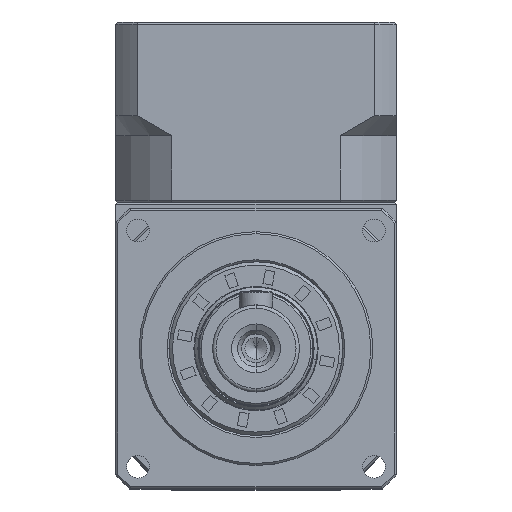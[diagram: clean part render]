
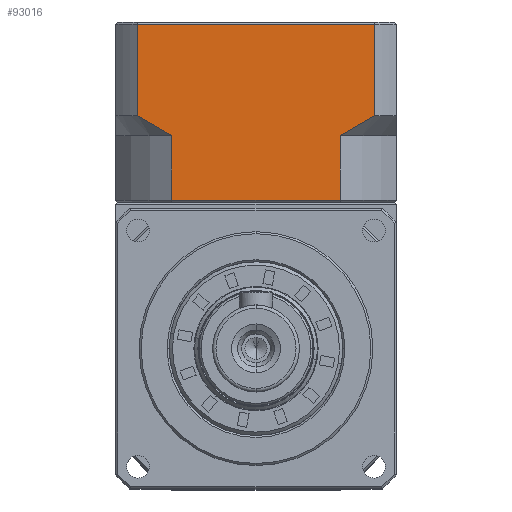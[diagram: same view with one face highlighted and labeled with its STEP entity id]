
A CAD part, top view. The second image highlights one B-rep face of the part: STEP entity #93016.
In plain terms, the highlighted planar face has unit normal (0, 0, 1).
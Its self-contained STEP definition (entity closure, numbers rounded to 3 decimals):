
#18 = CARTESIAN_POINT ( 'NONE',  ( 55.323, 80.19, 11.539 ) ) ;
#1087 = EDGE_CURVE ( 'NONE', #29440, #60967, #33813, .T. ) ;
#1809 = CARTESIAN_POINT ( 'NONE',  ( 24.949, 53.79, 11.539 ) ) ;
#2023 = EDGE_CURVE ( 'NONE', #9877, #27617, #25540, .T. ) ;
#2550 = AXIS2_PLACEMENT_3D ( 'NONE', #27292, #79805, #34813 ) ;
#2704 = CARTESIAN_POINT ( 'NONE',  ( 50.188, 53.79, 11.539 ) ) ;
#3744 = VECTOR ( 'NONE', #71162, 1000. ) ;
#4577 = VECTOR ( 'NONE', #58269, 1000. ) ;
#6670 = DIRECTION ( 'NONE',  ( 0., -1., 0. ) ) ;
#9877 = VERTEX_POINT ( 'NONE', #93870 ) ;
#10896 = CARTESIAN_POINT ( 'NONE',  ( 50.188, 33.326, 11.539 ) ) ;
#11557 = VECTOR ( 'NONE', #62720, 1000. ) ;
#11573 = LINE ( 'NONE', #67466, #49137 ) ;
#15546 = CARTESIAN_POINT ( 'NONE',  ( 19.813, 80.19, 11.539 ) ) ;
#16696 = CARTESIAN_POINT ( 'NONE',  ( 19.813, 66.49, 11.539 ) ) ;
#19519 = EDGE_CURVE ( 'NONE', #39418, #73601, #66395, .T. ) ;
#21734 = CARTESIAN_POINT ( 'NONE',  ( 24.949, 53.49, 11.539 ) ) ;
#23847 = CARTESIAN_POINT ( 'NONE',  ( 21.48, 65.414, 11.539 ) ) ;
#25540 = LINE ( 'NONE', #10896, #63097 ) ;
#26531 = VERTEX_POINT ( 'NONE', #79546 ) ;
#26982 = PLANE ( 'NONE',  #2550 ) ;
#27292 = CARTESIAN_POINT ( 'NONE',  ( 58.568, 53.49, 11.539 ) ) ;
#27455 = EDGE_LOOP ( 'NONE', ( #54706, #91951, #57046, #46907, #46039, #80919, #42972, #77297 ) ) ;
#27617 = VERTEX_POINT ( 'NONE', #2704 ) ;
#29259 = CARTESIAN_POINT ( 'NONE',  ( 24.949, 63.49, 11.539 ) ) ;
#29262 = CARTESIAN_POINT ( 'NONE',  ( 53.656, 65.414, 11.539 ) ) ;
#29440 = VERTEX_POINT ( 'NONE', #89719 ) ;
#30005 = DIRECTION ( 'NONE',  ( -1., 0., 0. ) ) ;
#33813 = LINE ( 'NONE', #40051, #11557 ) ;
#34813 = DIRECTION ( 'NONE',  ( -1., 0., 0. ) ) ;
#39261 = CARTESIAN_POINT ( 'NONE',  ( 24.949, 63.49, 11.539 ) ) ;
#39418 = VERTEX_POINT ( 'NONE', #29259 ) ;
#40051 = CARTESIAN_POINT ( 'NONE',  ( 55.323, 53.49, 11.539 ) ) ;
#42972 = ORIENTED_EDGE ( 'NONE', *, *, #1087, .T. ) ;
#45360 = EDGE_CURVE ( 'NONE', #74047, #26531, #84380, .T. ) ;
#46039 = ORIENTED_EDGE ( 'NONE', *, *, #2023, .F. ) ;
#46907 = ORIENTED_EDGE ( 'NONE', *, *, #58890, .F. ) ;
#49137 = VECTOR ( 'NONE', #30005, 1000. ) ;
#53047 = CARTESIAN_POINT ( 'NONE',  ( 58.568, 80.19, 11.539 ) ) ;
#54706 = ORIENTED_EDGE ( 'NONE', *, *, #45360, .T. ) ;
#55507 = DIRECTION ( 'NONE',  ( 0., -1., 0. ) ) ;
#57046 = ORIENTED_EDGE ( 'NONE', *, *, #19519, .T. ) ;
#58269 = DIRECTION ( 'NONE',  ( 0., -1., 0. ) ) ;
#58890 = EDGE_CURVE ( 'NONE', #27617, #73601, #11573, .T. ) ;
#59163 = CARTESIAN_POINT ( 'NONE',  ( 51.953, 64.399, 11.539 ) ) ;
#60967 = VERTEX_POINT ( 'NONE', #18 ) ;
#62720 = DIRECTION ( 'NONE',  ( 0., 1., 0. ) ) ;
#62729 = EDGE_CURVE ( 'NONE', #60967, #74047, #63616, .T. ) ;
#63097 = VECTOR ( 'NONE', #55507, 1000. ) ;
#63616 = LINE ( 'NONE', #53047, #3744 ) ;
#63889 = FACE_OUTER_BOUND ( 'NONE', #27455, .T. ) ;
#66395 = LINE ( 'NONE', #21734, #86278 ) ;
#66709 = CARTESIAN_POINT ( 'NONE',  ( 50.188, 63.49, 11.539 ) ) ;
#67466 = CARTESIAN_POINT ( 'NONE',  ( 58.568, 53.79, 11.539 ) ) ;
#71162 = DIRECTION ( 'NONE',  ( -1., 0., 0. ) ) ;
#73601 = VERTEX_POINT ( 'NONE', #1809 ) ;
#74047 = VERTEX_POINT ( 'NONE', #15546 ) ;
#76860 = CARTESIAN_POINT ( 'NONE',  ( 19.813, 53.49, 11.539 ) ) ;
#77297 = ORIENTED_EDGE ( 'NONE', *, *, #62729, .T. ) ;
#77749 = EDGE_CURVE ( 'NONE', #9877, #29440, #95516, .T. ) ;
#79546 = CARTESIAN_POINT ( 'NONE',  ( 19.813, 66.49, 11.539 ) ) ;
#79805 = DIRECTION ( 'NONE',  ( 0., 0., 1. ) ) ;
#80919 = ORIENTED_EDGE ( 'NONE', *, *, #77749, .T. ) ;
#81799 = CARTESIAN_POINT ( 'NONE',  ( 55.323, 66.49, 11.539 ) ) ;
#84197 = CARTESIAN_POINT ( 'NONE',  ( 23.184, 64.399, 11.539 ) ) ;
#84380 = LINE ( 'NONE', #76860, #4577 ) ;
#86278 = VECTOR ( 'NONE', #6670, 1000. ) ;
#89719 = CARTESIAN_POINT ( 'NONE',  ( 55.323, 66.49, 11.539 ) ) ;
#91951 = ORIENTED_EDGE ( 'NONE', *, *, #96129, .T. ) ;
#93016 = ADVANCED_FACE ( 'NONE', ( #63889 ), #26982, .T. ) ;
#93441 = B_SPLINE_CURVE_WITH_KNOTS ( 'NONE', 3,
 ( #16696, #23847, #84197, #39261 ),
 .UNSPECIFIED., .F., .F.,
 ( 4, 4 ),
 ( 0., 0.006 ),
 .UNSPECIFIED. ) ;
#93870 = CARTESIAN_POINT ( 'NONE',  ( 50.188, 63.49, 11.539 ) ) ;
#95516 = B_SPLINE_CURVE_WITH_KNOTS ( 'NONE', 3,
 ( #66709, #59163, #29262, #81799 ),
 .UNSPECIFIED., .F., .F.,
 ( 4, 4 ),
 ( 0., 0.006 ),
 .UNSPECIFIED. ) ;
#96129 = EDGE_CURVE ( 'NONE', #26531, #39418, #93441, .T. ) ;
